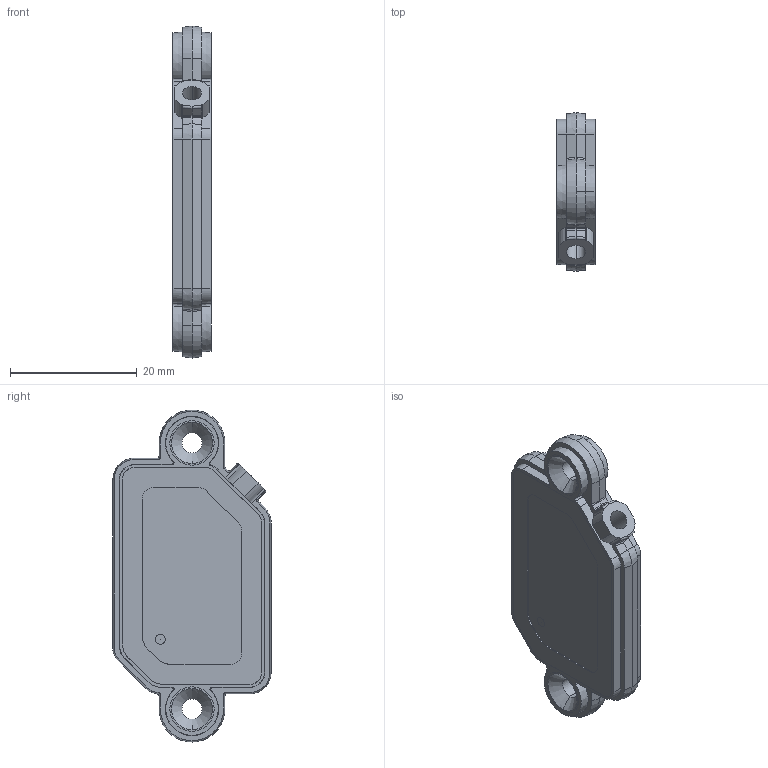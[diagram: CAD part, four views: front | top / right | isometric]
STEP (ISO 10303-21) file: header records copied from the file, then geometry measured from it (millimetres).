
FILE_DESCRIPTION (( 'STEP AP203' ), '1' );
FILE_NAME ('CS25P-B.STEP', '2025-09-04T08:27:59', ( '' ), ( '' ), 'SwSTEP 2.0', 'SolidWorks 2023', '' );
FILE_SCHEMA (( 'CONFIG_CONTROL_DESIGN' ));
Length unit declared in the file: millimetre
Products named in the file (5): CS25P-B; CR25 HOUSING; deng; CS25贴纸; CR25 COVER
Assembly tree (4 placements, depth 2):
  CS25P-B
    CR25 HOUSING
    CR25 COVER
    deng
    CS25贴纸
Bounding box: 6 x 25 x 52.4 mm (x, y, z)
Volume: 3016.5 mm3; surface area: 5840.6 mm2
Topology: 4 solids, 4 shells, 266 faces, 687 edges, 443 vertices
Faces by surface type: plane 118, cylinder 86, bspline 32, cone 30
Entity records: 8835 total; most frequent: CARTESIAN_POINT 2251, ORIENTED_EDGE 1374, DIRECTION 1140, EDGE_CURVE 687, VERTEX_POINT 443, VECTOR 400, LINE 400, AXIS2_PLACEMENT_3D 370
